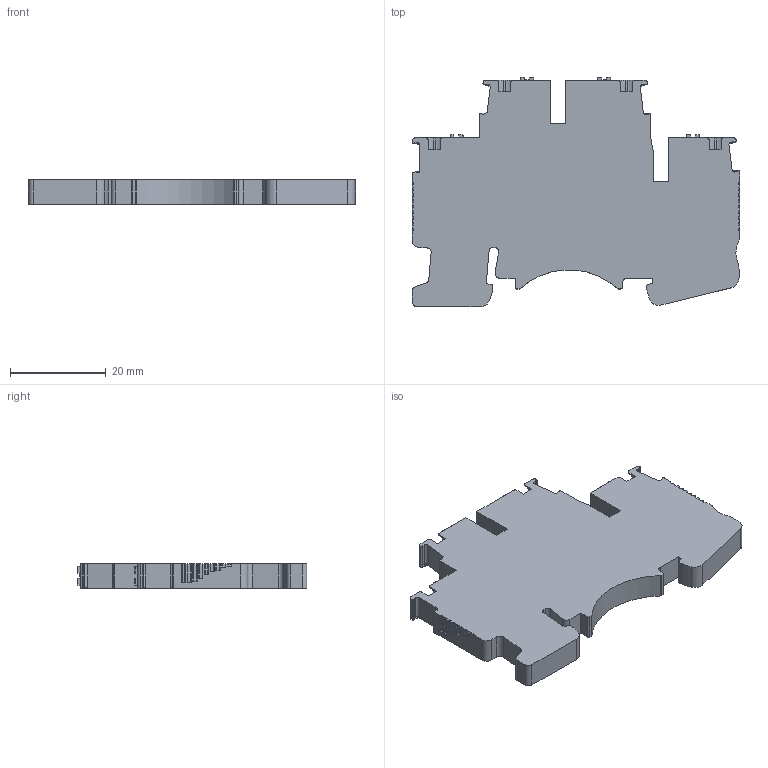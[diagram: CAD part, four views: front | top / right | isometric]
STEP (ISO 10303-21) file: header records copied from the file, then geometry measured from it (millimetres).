
FILE_DESCRIPTION((''),'2;1');
FILE_NAME('PRT0024','2020-05-29T',('Administrator'),(''),'PRO/ENGINEER BY PARAMETRIC TECHNOLOGY CORPORATION, 2010280','PRO/ENGINEER BY PARAMETRIC TECHNOLOGY CORPORATION, 2010280','');
FILE_SCHEMA(('CONFIG_CONTROL_DESIGN'));
Length unit declared in the file: millimetre
Products named in the file (1): PRT0024
Bounding box: 68.2 x 47.95 x 5.2 mm (x, y, z)
Volume: 12469.6 mm3; surface area: 6705.5 mm2
Topology: 1 solids, 2 shells, 472 faces, 1351 edges, 884 vertices
Faces by surface type: plane 348, cylinder 116, extrusion 4, cone 4
Entity records: 15844 total; most frequent: CARTESIAN_POINT 3509, ORIENTED_EDGE 2686, DIRECTION 2398, EDGE_CURVE 1343, VECTOR 1072, LINE 1068, VERTEX_POINT 880, AXIS2_PLACEMENT_3D 663
